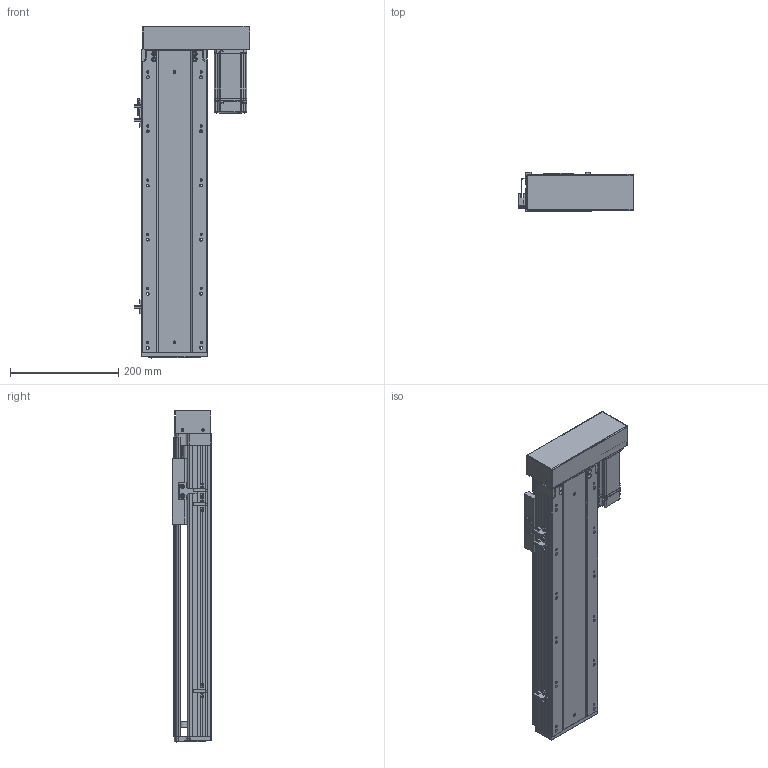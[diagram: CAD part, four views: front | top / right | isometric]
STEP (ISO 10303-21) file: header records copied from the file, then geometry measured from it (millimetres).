
FILE_DESCRIPTION (( 'STEP AP203' ), '1' );
FILE_NAME ('RY120-L1620-300-RK.SLDASM_350.step', '2021-02-22T02:29:39', ( '盈信电脑' ), ( '东莞市道滘镇水果街19号' ), 'SwSTEP 2.0', 'SolidWorks 2012', '' );
FILE_SCHEMA (( 'CONFIG_CONTROL_DESIGN' ));
Length unit declared in the file: millimetre
Products named in the file (14): RY120-L1620-300-RK.SLDASM_350; RY120蛌殏萇儂欶; 15; 侂狟400W侜督萇儂; RY120酘殏萇儂假蚾啣; RY120转拆电端丝杆支撑座; 滅袉蝶18-24; 覜茼ん672; 滅袉蝶18-10; RY120外置感应片(140共用）; RY120臏賑輸; RY120綴裔啣; RY120-300-RK蛌殏倰第奻裔啣_350; RY120-300-RK蛌殏倰第菁釱_350
Assembly tree (16 placements, depth 3):
  RY120-L1620-300-RK.SLDASM_350
    RY120-300-RK蛌殏倰第菁釱_350
    RY120-300-RK蛌殏倰第奻裔啣_350
    RY120臏賑輸
    RY120綴裔啣
    覜茼ん672  x3
    滅袉蝶18-10
    滅袉蝶18-24  x2
    RY120外置感应片(140共用）
    RY120转拆电端丝杆支撑座
    RY120酘殏萇儂假蚾啣
    侂狟400W侜督萇儂
      15
    RY120蛌殏萇儂欶
Bounding box: 214.4 x 73 x 614 mm (x, y, z)
Volume: 2164716.5 mm3; surface area: 751405.7 mm2
Topology: 16 solids, 16 shells, 2334 faces, 6403 edges, 4112 vertices
Faces by surface type: plane 1206, cylinder 838, cone 185, bspline 105
Entity records: 76816 total; most frequent: CARTESIAN_POINT 21389, ORIENTED_EDGE 11558, DIRECTION 10683, EDGE_CURVE 5779, VERTEX_POINT 3780, VECTOR 3645, LINE 3645, AXIS2_PLACEMENT_3D 3519
